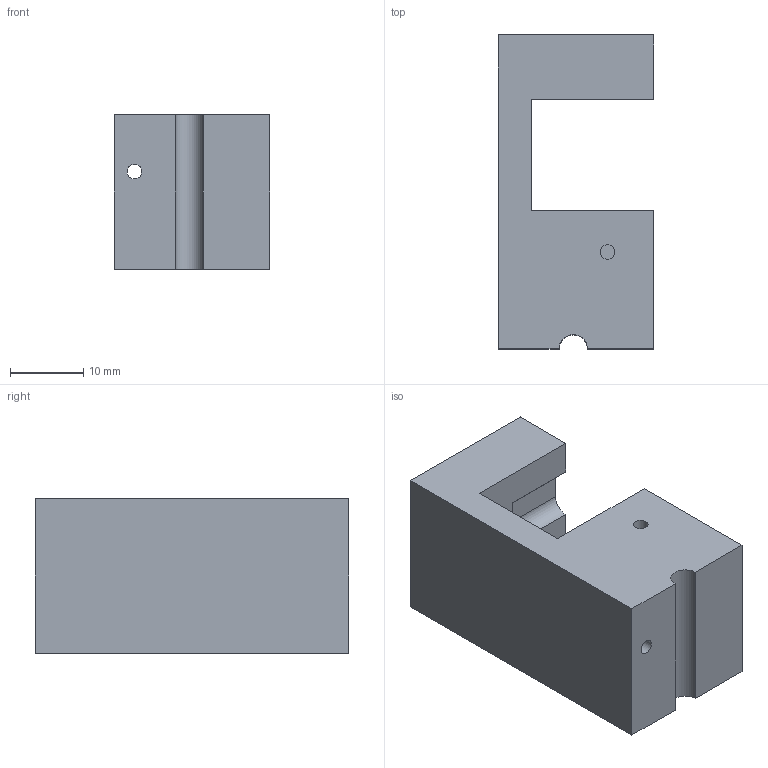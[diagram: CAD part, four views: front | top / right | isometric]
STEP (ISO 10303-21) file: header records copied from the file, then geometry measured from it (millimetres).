
FILE_DESCRIPTION(('Open CASCADE Model'),'2;1');
FILE_NAME('Open CASCADE Shape Model','2021-05-11T13:36:33',('Author'),( 'Open CASCADE'),'Open CASCADE STEP processor 7.4','Open CASCADE 7.4' ,'Unknown');
FILE_SCHEMA(('AUTOMOTIVE_DESIGN { 1 0 10303 214 1 1 1 1 }'));
Length unit declared in the file: millimetre
Products named in the file (1): Open CASCADE STEP translator 7.4 22
Bounding box: 21.23 x 42.83 x 21.11 mm (x, y, z)
Volume: 13337.8 mm3; surface area: 5318.2 mm2
Topology: 1 solids, 1 shells, 24 faces, 56 edges, 37 vertices
Faces by surface type: plane 16, cylinder 7, torus 1
Full cylindrical faces by diameter (mm): 2 x4
Entity records: 1437 total; most frequent: CARTESIAN_POINT 268, DIRECTION 221, LINE 130, VECTOR 130, ORIENTED_EDGE 112, PCURVE 112, DEFINITIONAL_REPRESENTATION 112, EDGE_CURVE 56
